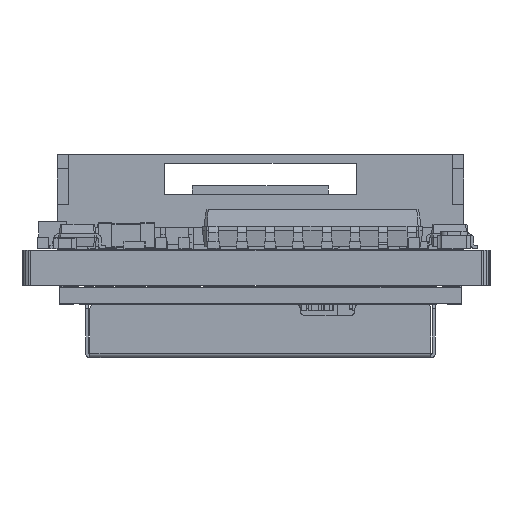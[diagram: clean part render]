
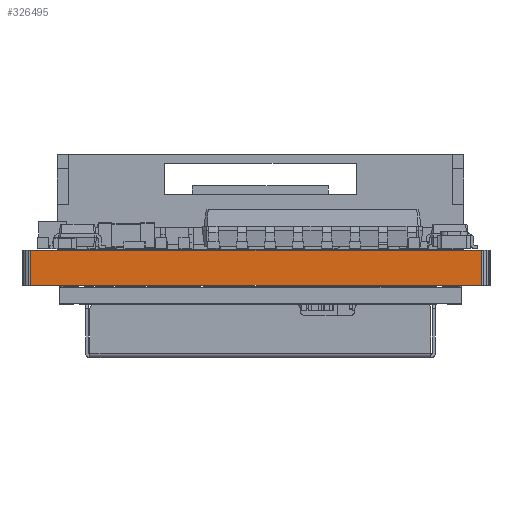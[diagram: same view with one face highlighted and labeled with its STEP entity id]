
A CAD part, left-side view. The second image highlights one B-rep face of the part: STEP entity #326495.
In plain terms, the highlighted planar face has unit normal (-1, 0, 0).
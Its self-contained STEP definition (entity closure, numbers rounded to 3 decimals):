
#322511 = PLANE('',#322512);
#322512 = AXIS2_PLACEMENT_3D('',#322513,#322514,#322515);
#322513 = CARTESIAN_POINT('',(115.797,-82.3,1.58));
#322514 = DIRECTION('',(-0.,-0.,-1.));
#322515 = DIRECTION('',(-1.,0.,0.));
#322565 = PLANE('',#322566);
#322566 = AXIS2_PLACEMENT_3D('',#322567,#322568,#322569);
#322567 = CARTESIAN_POINT('',(115.797,-82.3,0.));
#322568 = DIRECTION('',(-0.,-0.,-1.));
#322569 = DIRECTION('',(-1.,0.,0.));
#324326 = VERTEX_POINT('',#324327);
#324327 = CARTESIAN_POINT('',(100.1,-92.4,0.));
#324341 = PLANE('',#324342);
#324342 = AXIS2_PLACEMENT_3D('',#324343,#324344,#324345);
#324343 = CARTESIAN_POINT('',(100.12,-92.524,0.));
#324344 = DIRECTION('',(-0.988,-0.156,0.));
#324345 = DIRECTION('',(-0.156,0.988,0.));
#324353 = EDGE_CURVE('',#324326,#324354,#324356,.T.);
#324354 = VERTEX_POINT('',#324355);
#324355 = CARTESIAN_POINT('',(100.1,-72.2,0.));
#324356 = SURFACE_CURVE('',#324357,(#324361,#324368),.PCURVE_S1.);
#324357 = LINE('',#324358,#324359);
#324358 = CARTESIAN_POINT('',(100.1,-92.4,0.));
#324359 = VECTOR('',#324360,1.);
#324360 = DIRECTION('',(0.,1.,0.));
#324361 = PCURVE('',#322565,#324362);
#324362 = DEFINITIONAL_REPRESENTATION('',(#324363),#324367);
#324363 = LINE('',#324364,#324365);
#324364 = CARTESIAN_POINT('',(15.697,-10.1));
#324365 = VECTOR('',#324366,1.);
#324366 = DIRECTION('',(0.,1.));
#324367 = ( GEOMETRIC_REPRESENTATION_CONTEXT(2) 
PARAMETRIC_REPRESENTATION_CONTEXT() REPRESENTATION_CONTEXT('2D SPACE',''
  ) );
#324368 = PCURVE('',#324369,#324374);
#324369 = PLANE('',#324370);
#324370 = AXIS2_PLACEMENT_3D('',#324371,#324372,#324373);
#324371 = CARTESIAN_POINT('',(100.1,-92.4,0.));
#324372 = DIRECTION('',(-1.,0.,0.));
#324373 = DIRECTION('',(0.,1.,0.));
#324374 = DEFINITIONAL_REPRESENTATION('',(#324375),#324379);
#324375 = LINE('',#324376,#324377);
#324376 = CARTESIAN_POINT('',(0.,0.));
#324377 = VECTOR('',#324378,1.);
#324378 = DIRECTION('',(1.,0.));
#324379 = ( GEOMETRIC_REPRESENTATION_CONTEXT(2) 
PARAMETRIC_REPRESENTATION_CONTEXT() REPRESENTATION_CONTEXT('2D SPACE',''
  ) );
#324397 = PLANE('',#324398);
#324398 = AXIS2_PLACEMENT_3D('',#324399,#324400,#324401);
#324399 = CARTESIAN_POINT('',(100.1,-72.2,0.));
#324400 = DIRECTION('',(-0.988,0.156,0.));
#324401 = DIRECTION('',(0.156,0.988,0.));
#325930 = VERTEX_POINT('',#325931);
#325931 = CARTESIAN_POINT('',(100.1,-92.4,1.58));
#325952 = EDGE_CURVE('',#325930,#325953,#325955,.T.);
#325953 = VERTEX_POINT('',#325954);
#325954 = CARTESIAN_POINT('',(100.1,-72.2,1.58));
#325955 = SURFACE_CURVE('',#325956,(#325960,#325967),.PCURVE_S1.);
#325956 = LINE('',#325957,#325958);
#325957 = CARTESIAN_POINT('',(100.1,-92.4,1.58));
#325958 = VECTOR('',#325959,1.);
#325959 = DIRECTION('',(0.,1.,0.));
#325960 = PCURVE('',#322511,#325961);
#325961 = DEFINITIONAL_REPRESENTATION('',(#325962),#325966);
#325962 = LINE('',#325963,#325964);
#325963 = CARTESIAN_POINT('',(15.697,-10.1));
#325964 = VECTOR('',#325965,1.);
#325965 = DIRECTION('',(0.,1.));
#325966 = ( GEOMETRIC_REPRESENTATION_CONTEXT(2) 
PARAMETRIC_REPRESENTATION_CONTEXT() REPRESENTATION_CONTEXT('2D SPACE',''
  ) );
#325967 = PCURVE('',#324369,#325968);
#325968 = DEFINITIONAL_REPRESENTATION('',(#325969),#325973);
#325969 = LINE('',#325970,#325971);
#325970 = CARTESIAN_POINT('',(0.,-1.58));
#325971 = VECTOR('',#325972,1.);
#325972 = DIRECTION('',(1.,0.));
#325973 = ( GEOMETRIC_REPRESENTATION_CONTEXT(2) 
PARAMETRIC_REPRESENTATION_CONTEXT() REPRESENTATION_CONTEXT('2D SPACE',''
  ) );
#326445 = EDGE_CURVE('',#324354,#325953,#326446,.T.);
#326446 = SURFACE_CURVE('',#326447,(#326451,#326458),.PCURVE_S1.);
#326447 = LINE('',#326448,#326449);
#326448 = CARTESIAN_POINT('',(100.1,-72.2,0.));
#326449 = VECTOR('',#326450,1.);
#326450 = DIRECTION('',(0.,0.,1.));
#326451 = PCURVE('',#324397,#326452);
#326452 = DEFINITIONAL_REPRESENTATION('',(#326453),#326457);
#326453 = LINE('',#326454,#326455);
#326454 = CARTESIAN_POINT('',(0.,0.));
#326455 = VECTOR('',#326456,1.);
#326456 = DIRECTION('',(0.,-1.));
#326457 = ( GEOMETRIC_REPRESENTATION_CONTEXT(2) 
PARAMETRIC_REPRESENTATION_CONTEXT() REPRESENTATION_CONTEXT('2D SPACE',''
  ) );
#326458 = PCURVE('',#324369,#326459);
#326459 = DEFINITIONAL_REPRESENTATION('',(#326460),#326464);
#326460 = LINE('',#326461,#326462);
#326461 = CARTESIAN_POINT('',(20.2,0.));
#326462 = VECTOR('',#326463,1.);
#326463 = DIRECTION('',(0.,-1.));
#326464 = ( GEOMETRIC_REPRESENTATION_CONTEXT(2) 
PARAMETRIC_REPRESENTATION_CONTEXT() REPRESENTATION_CONTEXT('2D SPACE',''
  ) );
#326495 = ADVANCED_FACE('',(#326496),#324369,.T.);
#326496 = FACE_BOUND('',#326497,.T.);
#326497 = EDGE_LOOP('',(#326498,#326519,#326520,#326521));
#326498 = ORIENTED_EDGE('',*,*,#326499,.T.);
#326499 = EDGE_CURVE('',#324326,#325930,#326500,.T.);
#326500 = SURFACE_CURVE('',#326501,(#326505,#326512),.PCURVE_S1.);
#326501 = LINE('',#326502,#326503);
#326502 = CARTESIAN_POINT('',(100.1,-92.4,0.));
#326503 = VECTOR('',#326504,1.);
#326504 = DIRECTION('',(0.,0.,1.));
#326505 = PCURVE('',#324369,#326506);
#326506 = DEFINITIONAL_REPRESENTATION('',(#326507),#326511);
#326507 = LINE('',#326508,#326509);
#326508 = CARTESIAN_POINT('',(0.,0.));
#326509 = VECTOR('',#326510,1.);
#326510 = DIRECTION('',(0.,-1.));
#326511 = ( GEOMETRIC_REPRESENTATION_CONTEXT(2) 
PARAMETRIC_REPRESENTATION_CONTEXT() REPRESENTATION_CONTEXT('2D SPACE',''
  ) );
#326512 = PCURVE('',#324341,#326513);
#326513 = DEFINITIONAL_REPRESENTATION('',(#326514),#326518);
#326514 = LINE('',#326515,#326516);
#326515 = CARTESIAN_POINT('',(0.125,0.));
#326516 = VECTOR('',#326517,1.);
#326517 = DIRECTION('',(0.,-1.));
#326518 = ( GEOMETRIC_REPRESENTATION_CONTEXT(2) 
PARAMETRIC_REPRESENTATION_CONTEXT() REPRESENTATION_CONTEXT('2D SPACE',''
  ) );
#326519 = ORIENTED_EDGE('',*,*,#325952,.T.);
#326520 = ORIENTED_EDGE('',*,*,#326445,.F.);
#326521 = ORIENTED_EDGE('',*,*,#324353,.F.);
